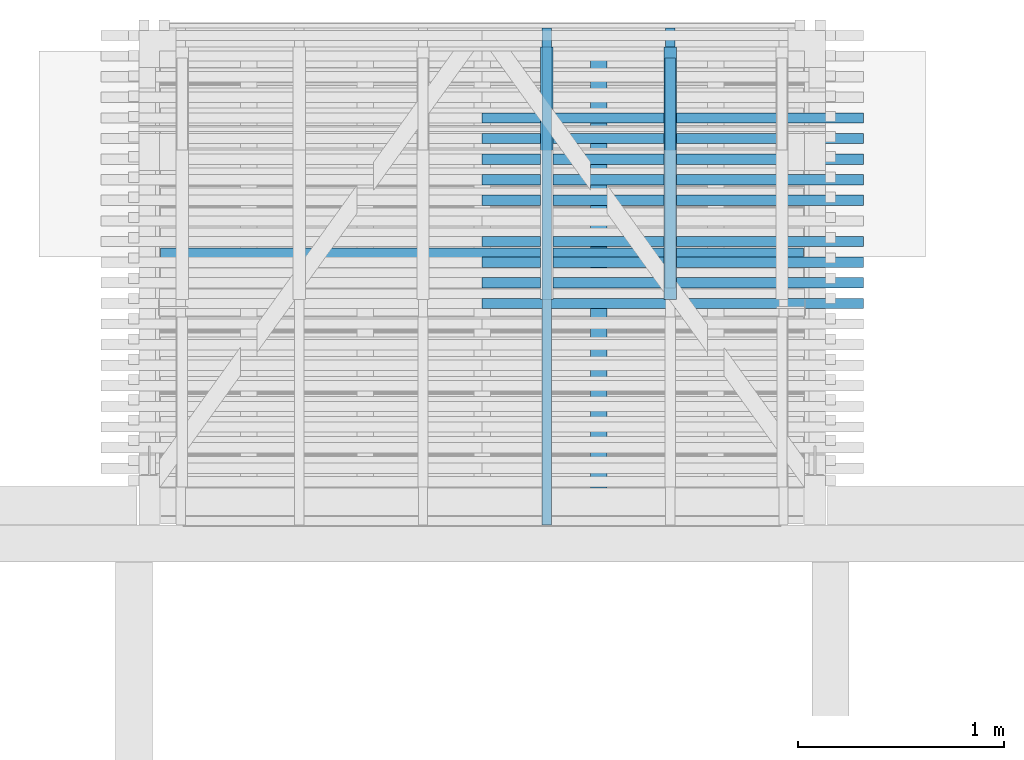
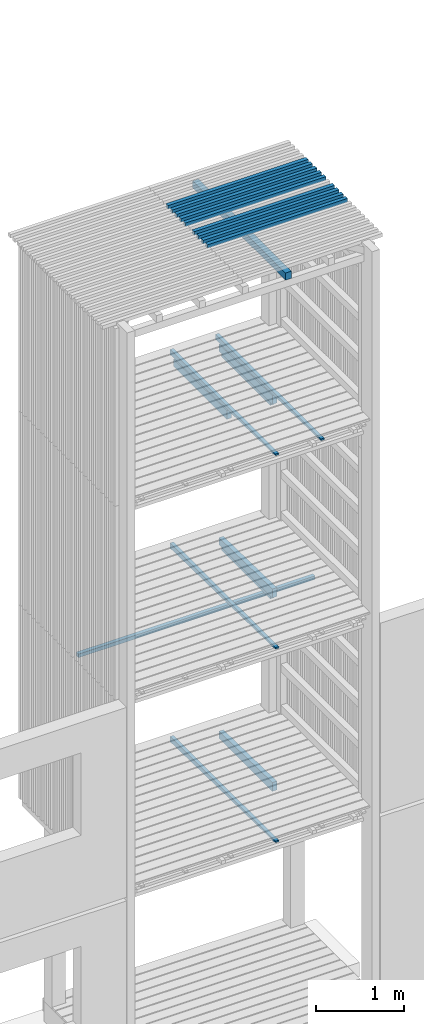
# One storey, part 49 of 182: 21 beams.
"""IFC2X3 building model written with IfcOpenShell, lengths in metres."""

from ifc_helpers import new_model, si_unit, frame, origin, place, context, project, spatial, faceted_brep, element, save


model = new_model("IFC2X3")

# Units and contexts
model_context = context("Model", 3, precision=1e-06, world=origin())
ifc_project = project(units=[si_unit("LENGTHUNIT", "METRE"), si_unit("PLANEANGLEUNIT", "RADIAN")], contexts=[model_context])

# Site, building, storey
site = spatial("IfcSite", under=ifc_project, CompositionType="ELEMENT")
building = spatial("IfcBuilding", under=site, CompositionType="ELEMENT")
storey = spatial("IfcBuildingStorey", under=building, Name="vs", CompositionType="ELEMENT", Elevation=-0.85)

# Beams
placement = place(None, origin())
beam_1_placement = place(placement, frame((15.902197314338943, 12.735077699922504, 7.91739999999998), z_axis=(0.0, 0.0, 1.0), x_axis=(0.0, -1.0, 0.0)))
element("IfcBeam", 1, at=beam_1_placement, inside=storey, Name="Calage", context=model_context, shape_type="Brep", body=[
    faceted_brep([(0.0, -0.025000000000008, -0.025), (0.0, -0.025000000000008, 0.024999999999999), (0.0, 0.024999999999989, 0.024999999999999), (0.0, 0.024999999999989, -0.025), (1.115000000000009, 0.024999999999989, 0.024999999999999), (1.115000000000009, -0.025000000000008, 0.024999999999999), (1.115000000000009, -0.025000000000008, -0.025), (1.115000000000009, 0.024999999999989, -0.025), (0.0, 0.024999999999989, 0.024999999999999), (0.0, -0.025000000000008, 0.024999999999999), (1.115000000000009, -0.025000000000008, 0.024999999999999), (1.115000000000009, 0.024999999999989, 0.024999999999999), (1.115000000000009, -0.025000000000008, 0.024999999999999), (0.0, -0.025000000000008, 0.024999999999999), (0.0, -0.025000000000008, -0.025), (1.115000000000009, -0.025000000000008, -0.025), (1.115000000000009, -0.025000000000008, -0.025), (0.0, -0.025000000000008, -0.025), (0.0, 0.024999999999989, -0.025), (1.115000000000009, 0.024999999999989, -0.025), (1.115000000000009, 0.024999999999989, -0.025), (0.0, 0.024999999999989, -0.025), (0.0, 0.024999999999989, 0.024999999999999), (1.115000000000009, 0.024999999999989, 0.024999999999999)], [[[0, 1, 2, 3]], [[4, 5, 6, 7]], [[8, 9, 10, 11]], [[12, 13, 14, 15]], [[16, 17, 18, 19]], [[20, 21, 22, 23]]]),
])
beam_2_placement = place(placement, frame((15.90219731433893, 10.4700776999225, 8.084400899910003), z_axis=(0.0, 0.0, 1.0), x_axis=(6e-15, 1.0, 0.0)))
element("IfcBeam", 2, at=beam_2_placement, inside=storey, Name="Calage", context=model_context, shape_type="Brep", body=[
    faceted_brep([(2.410000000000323, -0.022499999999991, -0.035599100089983), (0.0, -0.022500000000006, 0.012600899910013), (0.0, 0.022499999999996, 0.012600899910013), (2.410000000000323, 0.022500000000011, -0.035599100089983), (0.0, 0.022499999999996, 0.035599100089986), (0.0, 0.022499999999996, 0.012600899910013), (0.0, -0.022500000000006, 0.012600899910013), (0.0, -0.022500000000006, 0.035599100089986), (2.410000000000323, 0.022500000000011, -0.035599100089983), (0.0, 0.022499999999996, 0.012600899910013), (0.0, 0.022499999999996, 0.035599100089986), (2.410000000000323, 0.022500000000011, 0.035599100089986), (2.410000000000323, -0.022499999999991, 0.035599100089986), (0.0, -0.022500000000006, 0.035599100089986), (0.0, -0.022500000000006, 0.012600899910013), (2.410000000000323, -0.022499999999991, -0.035599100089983), (2.410000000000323, 0.022500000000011, 0.035599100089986), (0.0, 0.022499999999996, 0.035599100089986), (0.0, -0.022500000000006, 0.035599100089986), (2.410000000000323, -0.022499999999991, 0.035599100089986), (2.410000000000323, 0.022500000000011, -0.035599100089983), (2.410000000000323, 0.022500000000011, 0.035599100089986), (2.410000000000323, -0.022499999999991, 0.035599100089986), (2.410000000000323, -0.022499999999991, -0.035599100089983)], [[[0, 1, 2, 3]], [[4, 5, 6, 7]], [[8, 9, 10, 11]], [[12, 13, 14, 15]], [[16, 17, 18, 19]], [[20, 21, 22, 23]]]),
])
beam_3_placement = place(placement, frame((16.839197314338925, 12.245077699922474, 10.47999999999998), z_axis=(0.0, 0.0, 1.0), x_axis=(-1.0, 0.0, 0.0)))
element("IfcBeam", 3, at=beam_3_placement, inside=storey, Name="Bardage", context=model_context, shape_type="Brep", body=[
    faceted_brep([(-3e-15, 0.024999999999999, 0.025000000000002), (-3e-15, -0.024999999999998, 0.025000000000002), (1.849999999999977, -0.024999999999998, 0.025000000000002), (1.849999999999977, 0.024999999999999, 0.025000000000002), (1.849999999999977, -0.024999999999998, 0.025000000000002), (-3e-15, -0.024999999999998, 0.025000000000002), (-3e-15, -0.024999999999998, -0.024999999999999), (1.849999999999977, -0.024999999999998, -0.024999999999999), (-3e-15, -0.024999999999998, 0.025000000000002), (-3e-15, 0.024999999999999, 0.025000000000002), (-3e-15, 0.024999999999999, -0.024999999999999), (-3e-15, -0.024999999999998, -0.024999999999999), (-3e-15, 0.024999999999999, -0.024999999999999), (-3e-15, 0.024999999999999, 0.025000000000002), (1.849999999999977, 0.024999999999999, 0.025000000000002), (1.849999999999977, 0.024999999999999, -0.024999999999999), (1.849999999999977, -0.024999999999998, -0.024999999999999), (-3e-15, -0.024999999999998, -0.024999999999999), (-3e-15, 0.024999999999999, -0.024999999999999), (1.849999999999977, 0.024999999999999, -0.024999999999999), (1.849999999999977, -0.024999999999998, 0.025000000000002), (1.849999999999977, -0.024999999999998, -0.024999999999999), (1.849999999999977, 0.024999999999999, -0.024999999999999), (1.849999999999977, 0.024999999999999, 0.025000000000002)], [[[0, 1, 2, 3]], [[4, 5, 6, 7]], [[8, 9, 10, 11]], [[12, 13, 14, 15]], [[16, 17, 18, 19]], [[20, 21, 22, 23]]]),
])
beam_4_placement = place(placement, frame((15.302197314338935, 10.4700776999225, 5.384400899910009), z_axis=(0.0, 0.0, 1.0), x_axis=(0.0, 1.0, 0.0)))
element("IfcBeam", 4, at=beam_4_placement, inside=storey, Name="Calage", context=model_context, shape_type="Brep", body=[
    faceted_brep([(2.410000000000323, -0.022499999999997, -0.035599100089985), (0.0, -0.022499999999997, 0.012600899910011), (0.0, 0.022500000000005, 0.012600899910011), (2.410000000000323, 0.02249999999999, -0.035599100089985), (0.0, 0.022500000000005, 0.035599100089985), (0.0, 0.022500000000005, 0.012600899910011), (0.0, -0.022499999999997, 0.012600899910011), (0.0, -0.022499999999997, 0.035599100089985), (2.410000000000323, 0.02249999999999, -0.035599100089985), (0.0, 0.022500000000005, 0.012600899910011), (0.0, 0.022500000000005, 0.035599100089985), (2.410000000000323, 0.022500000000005, 0.035599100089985), (2.410000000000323, -0.022499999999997, 0.035599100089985), (0.0, -0.022499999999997, 0.035599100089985), (0.0, -0.022499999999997, 0.012600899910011), (2.410000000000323, -0.022499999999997, -0.035599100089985), (2.410000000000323, 0.022500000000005, 0.035599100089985), (0.0, 0.022500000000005, 0.035599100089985), (0.0, -0.022499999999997, 0.035599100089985), (2.410000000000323, -0.022499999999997, 0.035599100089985), (2.410000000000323, 0.02249999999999, -0.035599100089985), (2.410000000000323, 0.022500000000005, 0.035599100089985), (2.410000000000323, -0.022499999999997, 0.035599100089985), (2.410000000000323, -0.022499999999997, -0.035599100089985)], [[[0, 1, 2, 3]], [[4, 5, 6, 7]], [[8, 9, 10, 11]], [[12, 13, 14, 15]], [[16, 17, 18, 19]], [[20, 21, 22, 23]]]),
])
beam_5_placement = place(placement, frame((16.839197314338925, 12.345077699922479, 10.47999999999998), z_axis=(0.0, 0.0, 1.0), x_axis=(-1.0, 0.0, 0.0)))
element("IfcBeam", 5, at=beam_5_placement, inside=storey, Name="Bardage", context=model_context, shape_type="Brep", body=[
    faceted_brep([(-3e-15, 0.025000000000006, 0.025000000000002), (-3e-15, -0.024999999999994, 0.025000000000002), (1.849999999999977, -0.024999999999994, 0.025000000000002), (1.849999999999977, 0.025000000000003, 0.025000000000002), (1.849999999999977, -0.024999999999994, 0.025000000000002), (-3e-15, -0.024999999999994, 0.025000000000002), (-3e-15, -0.024999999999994, -0.024999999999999), (1.849999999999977, -0.024999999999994, -0.024999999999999), (-3e-15, -0.024999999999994, 0.025000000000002), (-3e-15, 0.025000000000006, 0.025000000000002), (-3e-15, 0.025000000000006, -0.024999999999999), (-3e-15, -0.024999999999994, -0.024999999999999), (-3e-15, 0.025000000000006, -0.024999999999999), (-3e-15, 0.025000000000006, 0.025000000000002), (1.849999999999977, 0.025000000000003, 0.025000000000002), (1.849999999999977, 0.025000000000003, -0.024999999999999), (1.849999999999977, -0.024999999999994, -0.024999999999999), (-3e-15, -0.024999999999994, -0.024999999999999), (-3e-15, 0.025000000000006, -0.024999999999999), (1.849999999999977, 0.025000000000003, -0.024999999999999), (1.849999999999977, -0.024999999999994, 0.025000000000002), (1.849999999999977, -0.024999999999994, -0.024999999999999), (1.849999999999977, 0.025000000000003, -0.024999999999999), (1.849999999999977, 0.025000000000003, 0.025000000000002)], [[[0, 1, 2, 3]], [[4, 5, 6, 7]], [[8, 9, 10, 11]], [[12, 13, 14, 15]], [[16, 17, 18, 19]], [[20, 21, 22, 23]]]),
])
beam_6_placement = place(placement, frame((16.839197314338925, 11.745077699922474, 10.47999999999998), z_axis=(0.0, 0.0, 1.0), x_axis=(-1.0, 0.0, 0.0)))
element("IfcBeam", 6, at=beam_6_placement, inside=storey, Name="Bardage", context=model_context, shape_type="Brep", body=[
    faceted_brep([(-3e-15, 0.024999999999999, 0.025000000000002), (-3e-15, -0.024999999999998, 0.025000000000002), (1.849999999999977, -0.024999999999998, 0.025000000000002), (1.849999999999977, 0.024999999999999, 0.025000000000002), (1.849999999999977, -0.024999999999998, 0.025000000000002), (-3e-15, -0.024999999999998, 0.025000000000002), (-3e-15, -0.024999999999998, -0.024999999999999), (1.849999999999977, -0.024999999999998, -0.024999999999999), (-3e-15, -0.024999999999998, 0.025000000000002), (-3e-15, 0.024999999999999, 0.025000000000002), (-3e-15, 0.024999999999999, -0.024999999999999), (-3e-15, -0.024999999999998, -0.024999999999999), (-3e-15, 0.024999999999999, -0.024999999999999), (-3e-15, 0.024999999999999, 0.025000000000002), (1.849999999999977, 0.024999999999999, 0.025000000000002), (1.849999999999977, 0.024999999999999, -0.024999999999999), (1.849999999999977, -0.024999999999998, -0.024999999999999), (-3e-15, -0.024999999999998, -0.024999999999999), (-3e-15, 0.024999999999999, -0.024999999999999), (1.849999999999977, 0.024999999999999, -0.024999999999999), (1.849999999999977, -0.024999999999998, 0.025000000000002), (1.849999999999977, -0.024999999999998, -0.024999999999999), (1.849999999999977, 0.024999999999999, -0.024999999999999), (1.849999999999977, 0.024999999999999, 0.025000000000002)], [[[0, 1, 2, 3]], [[4, 5, 6, 7]], [[8, 9, 10, 11]], [[12, 13, 14, 15]], [[16, 17, 18, 19]], [[20, 21, 22, 23]]]),
])
beam_7_placement = place(placement, frame((15.90219731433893, 11.565077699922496, 2.604249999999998), z_axis=(0.0, 0.0, 1.0), x_axis=(0.0, 1.0, 0.0)))
element("IfcBeam", 7, at=beam_7_placement, inside=storey, Name="Solive", context=model_context, shape_type="Brep", body=[
    faceted_brep([(0.0, -0.029999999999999, -0.06185), (1.225000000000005, -0.029999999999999, -0.06185), (1.225000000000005, -0.029999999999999, 0.037349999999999), (0.0, -0.029999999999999, 0.06185), (0.0, 0.030000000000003, -0.06185), (1.225000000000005, 0.029999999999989, -0.06185), (1.225000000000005, -0.029999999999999, -0.06185), (0.0, -0.029999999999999, -0.06185), (0.0, 0.030000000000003, 0.06185), (0.0, 0.030000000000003, -0.06185), (0.0, -0.029999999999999, -0.06185), (0.0, -0.029999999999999, 0.06185), (1.225000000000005, 0.029999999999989, -0.06185), (0.0, 0.030000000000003, -0.06185), (0.0, 0.030000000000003, 0.06185), (1.225000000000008, 0.029999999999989, 0.03735), (1.225000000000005, -0.029999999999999, 0.037349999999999), (1.225000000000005, -0.029999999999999, -0.06185), (1.225000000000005, 0.029999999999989, -0.06185), (1.225000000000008, 0.029999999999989, 0.03735), (0.0, -0.029999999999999, 0.06185), (1.225000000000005, -0.029999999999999, 0.037349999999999), (1.225000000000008, 0.029999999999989, 0.03735), (0.0, 0.030000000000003, 0.06185)], [[[0, 1, 2, 3]], [[4, 5, 6, 7]], [[8, 9, 10, 11]], [[12, 13, 14, 15]], [[16, 17, 18, 19]], [[20, 21, 22, 23]]]),
])
beam_8_placement = place(placement, frame((15.90219731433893, 11.565077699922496, 8.00424999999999), z_axis=(0.0, 0.0, 1.0), x_axis=(1.2e-14, 1.0, 0.0)))
element("IfcBeam", 8, at=beam_8_placement, inside=storey, Name="Solive", context=model_context, shape_type="Brep", body=[
    faceted_brep([(0.0, -0.029999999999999, -0.061849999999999), (1.225000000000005, -0.029999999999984, -0.061849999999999), (1.225000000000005, -0.029999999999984, 0.037349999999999), (0.0, -0.029999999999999, 0.061849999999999), (-1e-15, 0.030000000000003, -0.061849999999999), (1.225000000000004, 0.030000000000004, -0.061849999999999), (1.225000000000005, -0.029999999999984, -0.061849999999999), (0.0, -0.029999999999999, -0.061849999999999), (-1e-15, 0.030000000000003, 0.061850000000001), (-1e-15, 0.030000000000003, -0.061849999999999), (0.0, -0.029999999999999, -0.061849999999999), (0.0, -0.029999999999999, 0.061849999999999), (1.225000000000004, 0.030000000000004, -0.061849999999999), (-1e-15, 0.030000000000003, -0.061849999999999), (-1e-15, 0.030000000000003, 0.061850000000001), (1.225000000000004, 0.030000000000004, 0.037349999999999), (1.225000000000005, -0.029999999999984, 0.037349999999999), (1.225000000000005, -0.029999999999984, -0.061849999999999), (1.225000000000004, 0.030000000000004, -0.061849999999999), (1.225000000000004, 0.030000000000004, 0.037349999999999), (0.0, -0.029999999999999, 0.061849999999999), (1.225000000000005, -0.029999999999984, 0.037349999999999), (1.225000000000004, 0.030000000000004, 0.037349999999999), (-1e-15, 0.030000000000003, 0.061850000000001)], [[[0, 1, 2, 3]], [[4, 5, 6, 7]], [[8, 9, 10, 11]], [[12, 13, 14, 15]], [[16, 17, 18, 19]], [[20, 21, 22, 23]]]),
])
beam_9_placement = place(placement, frame((15.302197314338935, 10.4700776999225, 8.084400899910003), z_axis=(0.0, 0.0, 1.0), x_axis=(0.0, 1.0, 0.0)))
element("IfcBeam", 9, at=beam_9_placement, inside=storey, Name="Calage", context=model_context, shape_type="Brep", body=[
    faceted_brep([(2.410000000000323, -0.022499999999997, -0.035599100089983), (0.0, -0.022499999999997, 0.012600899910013), (0.0, 0.02249999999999, 0.012600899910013), (2.410000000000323, 0.02249999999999, -0.035599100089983), (0.0, 0.02249999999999, 0.035599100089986), (0.0, 0.02249999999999, 0.012600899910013), (0.0, -0.022499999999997, 0.012600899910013), (0.0, -0.022499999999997, 0.035599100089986), (2.410000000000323, 0.02249999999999, -0.035599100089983), (0.0, 0.02249999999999, 0.012600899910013), (0.0, 0.02249999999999, 0.035599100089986), (2.410000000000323, 0.02249999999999, 0.035599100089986), (2.410000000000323, -0.022499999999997, 0.035599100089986), (0.0, -0.022499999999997, 0.035599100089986), (0.0, -0.022499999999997, 0.012600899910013), (2.410000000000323, -0.022499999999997, -0.035599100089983), (2.410000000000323, 0.02249999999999, 0.035599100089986), (0.0, 0.02249999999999, 0.035599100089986), (0.0, -0.022499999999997, 0.035599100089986), (2.410000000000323, -0.022499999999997, 0.035599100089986), (2.410000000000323, 0.02249999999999, -0.035599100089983), (2.410000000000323, 0.02249999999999, 0.035599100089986), (2.410000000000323, -0.022499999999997, 0.035599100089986), (2.410000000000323, -0.022499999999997, -0.035599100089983)], [[[0, 1, 2, 3]], [[4, 5, 6, 7]], [[8, 9, 10, 11]], [[12, 13, 14, 15]], [[16, 17, 18, 19]], [[20, 21, 22, 23]]]),
])
beam_10_placement = place(placement, frame((15.302197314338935, 10.4700776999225, 2.684400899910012), z_axis=(0.0, 0.0, 1.0), x_axis=(0.0, 1.0, 0.0)))
element("IfcBeam", 10, at=beam_10_placement, inside=storey, Name="Calage", context=model_context, shape_type="Brep", body=[
    faceted_brep([(2.410000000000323, -0.022499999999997, -0.035599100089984), (0.0, -0.022499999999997, 0.012600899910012), (0.0, 0.022500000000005, 0.012600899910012), (2.410000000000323, 0.02249999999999, -0.035599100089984), (0.0, 0.022500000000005, 0.035599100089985), (0.0, 0.022500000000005, 0.012600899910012), (0.0, -0.022499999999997, 0.012600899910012), (0.0, -0.022499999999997, 0.035599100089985), (2.410000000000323, 0.02249999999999, -0.035599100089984), (0.0, 0.022500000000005, 0.012600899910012), (0.0, 0.022500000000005, 0.035599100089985), (2.410000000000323, 0.022500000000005, 0.035599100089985), (2.410000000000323, -0.022499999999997, 0.035599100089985), (0.0, -0.022499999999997, 0.035599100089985), (0.0, -0.022499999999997, 0.012600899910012), (2.410000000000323, -0.022499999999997, -0.035599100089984), (2.410000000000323, 0.022500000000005, 0.035599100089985), (0.0, 0.022500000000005, 0.035599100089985), (0.0, -0.022499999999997, 0.035599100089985), (2.410000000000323, -0.022499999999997, 0.035599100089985), (2.410000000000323, 0.02249999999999, -0.035599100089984), (2.410000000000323, 0.022500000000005, 0.035599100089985), (2.410000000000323, -0.022499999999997, 0.035599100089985), (2.410000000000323, -0.022499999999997, -0.035599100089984)], [[[0, 1, 2, 3]], [[4, 5, 6, 7]], [[8, 9, 10, 11]], [[12, 13, 14, 15]], [[16, 17, 18, 19]], [[20, 21, 22, 23]]]),
])
beam_11_placement = place(placement, frame((15.902197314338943, 12.735077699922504, 5.217399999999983), z_axis=(0.0, 0.0, 1.0), x_axis=(0.0, -1.0, 0.0)))
element("IfcBeam", 11, at=beam_11_placement, inside=storey, Name="Calage", context=model_context, shape_type="Brep", body=[
    faceted_brep([(0.0, -0.025000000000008, -0.025), (0.0, -0.025000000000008, 0.024999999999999), (0.0, 0.024999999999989, 0.024999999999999), (0.0, 0.024999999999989, -0.025), (1.115000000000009, 0.024999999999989, 0.024999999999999), (1.115000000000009, -0.025000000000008, 0.024999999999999), (1.115000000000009, -0.025000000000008, -0.025), (1.115000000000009, 0.024999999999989, -0.025), (0.0, 0.024999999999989, 0.024999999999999), (0.0, -0.025000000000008, 0.024999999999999), (1.115000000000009, -0.025000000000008, 0.024999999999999), (1.115000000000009, 0.024999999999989, 0.024999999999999), (1.115000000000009, -0.025000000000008, 0.024999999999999), (0.0, -0.025000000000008, 0.024999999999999), (0.0, -0.025000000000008, -0.025), (1.115000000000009, -0.025000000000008, -0.025), (1.115000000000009, -0.025000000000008, -0.025), (0.0, -0.025000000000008, -0.025), (0.0, 0.024999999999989, -0.025), (1.115000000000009, 0.024999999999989, -0.025), (1.115000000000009, 0.024999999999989, -0.025), (0.0, 0.024999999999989, -0.025), (0.0, 0.024999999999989, 0.024999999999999), (1.115000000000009, 0.024999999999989, 0.024999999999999)], [[[0, 1, 2, 3]], [[4, 5, 6, 7]], [[8, 9, 10, 11]], [[12, 13, 14, 15]], [[16, 17, 18, 19]], [[20, 21, 22, 23]]]),
])
for number, where, z_axis, x_axis in (
    (12, (16.839197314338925, 12.145077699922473, 10.47999999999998), (0.0, 0.0, 1.0), (-1.0, 0.0, 0.0)),
    (13, (16.839197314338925, 11.645077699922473, 10.47999999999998), (0.0, 0.0, 1.0), (-1.0, 0.0, 0.0)),
):
    element("IfcBeam", number, at=place(placement, frame(where, z_axis=z_axis, x_axis=x_axis)), inside=storey, Name="Bardage", context=model_context, shape_type="Brep", body=[
        faceted_brep([(-3e-15, 0.024999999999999, 0.025000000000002), (-3e-15, -0.025000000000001, 0.025000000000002), (1.849999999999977, -0.025000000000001, 0.025000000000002), (1.849999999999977, 0.024999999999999, 0.025000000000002), (1.849999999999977, -0.025000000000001, 0.025000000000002), (-3e-15, -0.025000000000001, 0.025000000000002), (-3e-15, -0.025000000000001, -0.024999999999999), (1.849999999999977, -0.025000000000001, -0.024999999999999), (-3e-15, -0.025000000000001, 0.025000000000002), (-3e-15, 0.024999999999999, 0.025000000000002), (-3e-15, 0.024999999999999, -0.024999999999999), (-3e-15, -0.025000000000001, -0.024999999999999), (-3e-15, 0.024999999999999, -0.024999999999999), (-3e-15, 0.024999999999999, 0.025000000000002), (1.849999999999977, 0.024999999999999, 0.025000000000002), (1.849999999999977, 0.024999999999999, -0.024999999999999), (1.849999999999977, -0.025000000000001, -0.024999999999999), (-3e-15, -0.025000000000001, -0.024999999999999), (-3e-15, 0.024999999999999, -0.024999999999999), (1.849999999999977, 0.024999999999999, -0.024999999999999), (1.849999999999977, -0.025000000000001, 0.025000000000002), (1.849999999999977, -0.025000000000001, -0.024999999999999), (1.849999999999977, 0.024999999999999, -0.024999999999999), (1.849999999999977, 0.024999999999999, 0.025000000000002)], [[[0, 1, 2, 3]], [[4, 5, 6, 7]], [[8, 9, 10, 11]], [[12, 13, 14, 15]], [[16, 17, 18, 19]], [[20, 21, 22, 23]]]),
    ])
beam_12_placement = place(placement, frame((16.839197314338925, 11.545077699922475, 10.47999999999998), z_axis=(0.0, 0.0, 1.0), x_axis=(-1.0, 0.0, 0.0)))
element("IfcBeam", 14, at=beam_12_placement, inside=storey, Name="Bardage", context=model_context, shape_type="Brep", body=[
    faceted_brep([(-3e-15, 0.025000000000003, 0.025000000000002), (-3e-15, -0.024999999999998, 0.025000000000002), (1.849999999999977, -0.024999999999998, 0.025000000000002), (1.849999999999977, 0.025000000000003, 0.025000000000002), (1.849999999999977, -0.024999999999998, 0.025000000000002), (-3e-15, -0.024999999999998, 0.025000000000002), (-3e-15, -0.024999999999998, -0.024999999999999), (1.849999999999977, -0.024999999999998, -0.024999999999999), (-3e-15, -0.024999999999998, 0.025000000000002), (-3e-15, 0.025000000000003, 0.025000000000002), (-3e-15, 0.025000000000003, -0.024999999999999), (-3e-15, -0.024999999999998, -0.024999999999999), (-3e-15, 0.025000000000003, -0.024999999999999), (-3e-15, 0.025000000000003, 0.025000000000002), (1.849999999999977, 0.025000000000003, 0.025000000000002), (1.849999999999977, 0.025000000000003, -0.024999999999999), (1.849999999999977, -0.024999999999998, -0.024999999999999), (-3e-15, -0.024999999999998, -0.024999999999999), (-3e-15, 0.025000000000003, -0.024999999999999), (1.849999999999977, 0.025000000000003, -0.024999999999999), (1.849999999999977, -0.024999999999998, 0.025000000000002), (1.849999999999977, -0.024999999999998, -0.024999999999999), (1.849999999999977, 0.025000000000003, -0.024999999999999), (1.849999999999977, 0.025000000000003, 0.025000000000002)], [[[0, 1, 2, 3]], [[4, 5, 6, 7]], [[8, 9, 10, 11]], [[12, 13, 14, 15]], [[16, 17, 18, 19]], [[20, 21, 22, 23]]]),
])
beam_13_placement = place(placement, frame((16.839197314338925, 12.045077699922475, 10.47999999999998), z_axis=(0.0, 0.0, 1.0), x_axis=(-1.0, 0.0, 0.0)))
element("IfcBeam", 15, at=beam_13_placement, inside=storey, Name="Bardage", context=model_context, shape_type="Brep", body=[
    faceted_brep([(-3e-15, 0.025000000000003, 0.025000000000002), (-3e-15, -0.024999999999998, 0.025000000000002), (1.849999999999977, -0.025000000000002, 0.025000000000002), (1.849999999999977, 0.025000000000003, 0.025000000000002), (1.849999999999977, -0.025000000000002, 0.025000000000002), (-3e-15, -0.024999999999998, 0.025000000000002), (-3e-15, -0.024999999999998, -0.024999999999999), (1.849999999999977, -0.025000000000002, -0.024999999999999), (-3e-15, -0.024999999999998, 0.025000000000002), (-3e-15, 0.025000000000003, 0.025000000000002), (-3e-15, 0.025000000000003, -0.024999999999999), (-3e-15, -0.024999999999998, -0.024999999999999), (-3e-15, 0.025000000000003, -0.024999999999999), (-3e-15, 0.025000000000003, 0.025000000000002), (1.849999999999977, 0.025000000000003, 0.025000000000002), (1.849999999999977, 0.025000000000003, -0.024999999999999), (1.849999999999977, -0.025000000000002, -0.024999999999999), (-3e-15, -0.024999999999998, -0.024999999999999), (-3e-15, 0.025000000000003, -0.024999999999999), (1.849999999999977, 0.025000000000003, -0.024999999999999), (1.849999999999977, -0.025000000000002, 0.025000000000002), (1.849999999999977, -0.025000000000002, -0.024999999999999), (1.849999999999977, 0.025000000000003, -0.024999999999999), (1.849999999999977, 0.025000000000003, 0.025000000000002)], [[[0, 1, 2, 3]], [[4, 5, 6, 7]], [[8, 9, 10, 11]], [[12, 13, 14, 15]], [[16, 17, 18, 19]], [[20, 21, 22, 23]]]),
])
beam_14_placement = place(placement, frame((15.90219731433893, 11.565077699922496, 5.304249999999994), z_axis=(0.0, 0.0, 1.0), x_axis=(0.0, 1.0, 0.0)))
element("IfcBeam", 16, at=beam_14_placement, inside=storey, Name="Solive", context=model_context, shape_type="Brep", body=[
    faceted_brep([(0.0, -0.029999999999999, -0.061849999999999), (1.225000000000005, -0.029999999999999, -0.061849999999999), (1.225000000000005, -0.029999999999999, 0.03735), (0.0, -0.029999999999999, 0.06185), (0.0, 0.030000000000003, -0.061849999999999), (1.225000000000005, 0.029999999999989, -0.061849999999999), (1.225000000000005, -0.029999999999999, -0.061849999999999), (0.0, -0.029999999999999, -0.061849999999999), (0.0, 0.030000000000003, 0.061850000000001), (0.0, 0.030000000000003, -0.061849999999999), (0.0, -0.029999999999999, -0.061849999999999), (0.0, -0.029999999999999, 0.06185), (1.225000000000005, 0.029999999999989, -0.061849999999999), (0.0, 0.030000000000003, -0.061849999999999), (0.0, 0.030000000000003, 0.061850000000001), (1.225000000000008, 0.029999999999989, 0.03735), (1.225000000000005, -0.029999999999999, 0.03735), (1.225000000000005, -0.029999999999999, -0.061849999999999), (1.225000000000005, 0.029999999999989, -0.061849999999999), (1.225000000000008, 0.029999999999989, 0.03735), (0.0, -0.029999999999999, 0.06185), (1.225000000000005, -0.029999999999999, 0.03735), (1.225000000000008, 0.029999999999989, 0.03735), (0.0, 0.030000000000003, 0.061850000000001)], [[[0, 1, 2, 3]], [[4, 5, 6, 7]], [[8, 9, 10, 11]], [[12, 13, 14, 15]], [[16, 17, 18, 19]], [[20, 21, 22, 23]]]),
])
beam_15_placement = place(placement, frame((16.839197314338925, 11.845077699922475, 10.47999999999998), z_axis=(0.0, 0.0, 1.0), x_axis=(-1.0, 0.0, 0.0)))
element("IfcBeam", 17, at=beam_15_placement, inside=storey, Name="Bardage", context=model_context, shape_type="Brep", body=[
    faceted_brep([(-3e-15, 0.025000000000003, 0.025000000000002), (-3e-15, -0.024999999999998, 0.025000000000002), (1.849999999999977, -0.024999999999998, 0.025000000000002), (1.849999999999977, 0.025000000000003, 0.025000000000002), (1.849999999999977, -0.024999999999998, 0.025000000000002), (-3e-15, -0.024999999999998, 0.025000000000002), (-3e-15, -0.024999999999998, -0.024999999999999), (1.849999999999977, -0.024999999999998, -0.024999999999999), (-3e-15, -0.024999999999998, 0.025000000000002), (-3e-15, 0.025000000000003, 0.025000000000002), (-3e-15, 0.025000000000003, -0.024999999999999), (-3e-15, -0.024999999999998, -0.024999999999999), (-3e-15, 0.025000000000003, -0.024999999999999), (-3e-15, 0.025000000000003, 0.025000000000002), (1.849999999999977, 0.025000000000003, 0.025000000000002), (1.849999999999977, 0.025000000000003, -0.024999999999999), (1.849999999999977, -0.024999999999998, -0.024999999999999), (-3e-15, -0.024999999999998, -0.024999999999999), (-3e-15, 0.025000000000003, -0.024999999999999), (1.849999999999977, 0.025000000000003, -0.024999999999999), (1.849999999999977, -0.024999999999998, 0.025000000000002), (1.849999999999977, -0.024999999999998, -0.024999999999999), (1.849999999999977, 0.025000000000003, -0.024999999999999), (1.849999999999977, 0.025000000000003, 0.025000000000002)], [[[0, 1, 2, 3]], [[4, 5, 6, 7]], [[8, 9, 10, 11]], [[12, 13, 14, 15]], [[16, 17, 18, 19]], [[20, 21, 22, 23]]]),
])
beam_16_placement = place(placement, frame((15.302197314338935, 11.565077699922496, 8.00424999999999), z_axis=(0.0, 0.0, 1.0), x_axis=(0.0, 1.0, 0.0)))
element("IfcBeam", 18, at=beam_16_placement, inside=storey, Name="Solive", context=model_context, shape_type="Brep", body=[
    faceted_brep([(0.0, -0.030000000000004, -0.061849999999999), (1.225000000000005, -0.030000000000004, -0.061849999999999), (1.225000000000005, -0.030000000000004, 0.037349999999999), (0.0, -0.030000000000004, 0.061849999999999), (0.0, 0.029999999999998, 0.061850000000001), (0.0, 0.029999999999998, -0.061849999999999), (0.0, -0.030000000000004, -0.061849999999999), (0.0, -0.030000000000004, 0.061849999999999), (0.0, -0.030000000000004, -0.061849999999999), (0.0, 0.029999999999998, -0.061849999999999), (1.225000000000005, 0.029999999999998, -0.061849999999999), (1.225000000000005, -0.030000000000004, -0.061849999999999), (1.225000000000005, 0.029999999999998, -0.061849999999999), (0.0, 0.029999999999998, -0.061849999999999), (0.0, 0.029999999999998, 0.061850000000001), (1.225000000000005, 0.029999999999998, 0.037349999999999), (1.225000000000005, -0.030000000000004, 0.037349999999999), (1.225000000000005, -0.030000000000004, -0.061849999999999), (1.225000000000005, 0.029999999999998, -0.061849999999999), (1.225000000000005, 0.029999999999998, 0.037349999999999), (0.0, -0.030000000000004, 0.061849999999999), (1.225000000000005, -0.030000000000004, 0.037349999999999), (1.225000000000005, 0.029999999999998, 0.037349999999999), (0.0, 0.029999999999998, 0.061850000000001)], [[[0, 1, 2, 3]], [[4, 5, 6, 7]], [[8, 9, 10, 11]], [[12, 13, 14, 15]], [[16, 17, 18, 19]], [[20, 21, 22, 23]]]),
])
beam_17_placement = place(placement, frame((15.55586398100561, 10.650077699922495, 10.404999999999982), z_axis=(0.0, 0.0, 1.0), x_axis=(0.0, 1.0, 0.0)))
element("IfcBeam", 19, at=beam_17_placement, inside=storey, Name="Support bardage", context=model_context, shape_type="Brep", body=[
    faceted_brep([(2.120000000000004, -0.039999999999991, 0.050000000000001), (2.120000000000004, 0.040000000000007, 0.050000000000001), (3e-15, 0.040000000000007, 0.050000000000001), (3e-15, -0.039999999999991, 0.050000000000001), (3e-15, 0.040000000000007, 0.050000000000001), (2.120000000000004, 0.040000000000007, 0.050000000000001), (2.120000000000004, 0.040000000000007, -0.050000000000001), (3e-15, 0.040000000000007, -0.050000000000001), (2.120000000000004, 0.040000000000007, 0.050000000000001), (2.120000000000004, -0.039999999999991, 0.050000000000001), (2.120000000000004, -0.039999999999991, -0.050000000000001), (2.120000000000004, 0.040000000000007, -0.050000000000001), (2.120000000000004, -0.039999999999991, -0.050000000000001), (2.120000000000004, -0.039999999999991, 0.050000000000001), (3e-15, -0.039999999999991, 0.050000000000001), (3e-15, -0.039999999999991, -0.050000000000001), (3e-15, 0.040000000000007, -0.050000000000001), (2.120000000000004, 0.040000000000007, -0.050000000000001), (2.120000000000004, -0.039999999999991, -0.050000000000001), (3e-15, -0.039999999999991, -0.050000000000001), (3e-15, 0.040000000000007, 0.050000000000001), (3e-15, 0.040000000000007, -0.050000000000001), (3e-15, -0.039999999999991, -0.050000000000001), (3e-15, -0.039999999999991, 0.050000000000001)], [[[0, 1, 2, 3]], [[4, 5, 6, 7]], [[8, 9, 10, 11]], [[12, 13, 14, 15]], [[16, 17, 18, 19]], [[20, 21, 22, 23]]]),
])
beam_18_placement = place(placement, frame((16.839197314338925, 12.445077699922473, 10.47999999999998), z_axis=(0.0, 0.0, 1.0), x_axis=(-1.0, 2e-15, 0.0)))
element("IfcBeam", 20, at=beam_18_placement, inside=storey, Name="Bardage", context=model_context, shape_type="Brep", body=[
    faceted_brep([(-3e-15, 0.024999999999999, 0.025000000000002), (-3e-15, -0.025000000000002, 0.025000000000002), (1.849999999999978, -0.024999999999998, 0.025000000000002), (1.849999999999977, 0.025000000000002, 0.025000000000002), (1.849999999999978, -0.024999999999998, 0.025000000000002), (-3e-15, -0.025000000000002, 0.025000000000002), (-3e-15, -0.025000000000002, -0.024999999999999), (1.849999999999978, -0.024999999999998, -0.024999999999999), (-3e-15, -0.025000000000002, 0.025000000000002), (-3e-15, 0.024999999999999, 0.025000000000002), (-3e-15, 0.024999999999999, -0.024999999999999), (-3e-15, -0.025000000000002, -0.024999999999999), (-3e-15, 0.024999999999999, -0.024999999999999), (-3e-15, 0.024999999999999, 0.025000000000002), (1.849999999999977, 0.025000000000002, 0.025000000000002), (1.849999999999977, 0.025000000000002, -0.024999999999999), (1.849999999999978, -0.024999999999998, -0.024999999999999), (-3e-15, -0.025000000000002, -0.024999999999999), (-3e-15, 0.024999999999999, -0.024999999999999), (1.849999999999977, 0.025000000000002, -0.024999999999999), (1.849999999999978, -0.024999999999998, 0.025000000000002), (1.849999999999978, -0.024999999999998, -0.024999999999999), (1.849999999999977, 0.025000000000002, -0.024999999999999), (1.849999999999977, 0.025000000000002, 0.025000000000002)], [[[0, 1, 2, 3]], [[4, 5, 6, 7]], [[8, 9, 10, 11]], [[12, 13, 14, 15]], [[16, 17, 18, 19]], [[20, 21, 22, 23]]]),
])
beam_19_placement = place(placement, frame((16.549197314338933, 11.789244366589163, 5.167399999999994), z_axis=(0.0, 0.0, 1.0), x_axis=(-1.0, 0.0, 0.0)))
element("IfcBeam", 21, at=beam_19_placement, inside=storey, Name="Bardage", context=model_context, shape_type="Brep", body=[
    faceted_brep([(3.120000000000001, 0.025000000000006, -0.024999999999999), (3.120000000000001, 0.025000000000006, 0.025), (3.120000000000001, -0.024999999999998, 0.025), (3.120000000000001, -0.024999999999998, -0.024999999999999), (-3e-15, -0.024999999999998, -0.024999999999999), (-3e-15, -0.024999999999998, 0.025), (-3e-15, 0.025000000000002, 0.025), (-3e-15, 0.025000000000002, -0.024999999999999), (-3e-15, 0.025000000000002, -0.024999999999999), (-3e-15, 0.025000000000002, 0.025), (3.120000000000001, 0.025000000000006, 0.025), (3.120000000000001, 0.025000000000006, -0.024999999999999), (-3e-15, 0.025000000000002, 0.025), (-3e-15, -0.024999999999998, 0.025), (3.120000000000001, -0.024999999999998, 0.025), (3.120000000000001, 0.025000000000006, 0.025), (-3e-15, -0.024999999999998, 0.025), (-3e-15, -0.024999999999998, -0.024999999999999), (3.120000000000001, -0.024999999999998, -0.024999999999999), (3.120000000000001, -0.024999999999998, 0.025), (-3e-15, -0.024999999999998, -0.024999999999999), (-3e-15, 0.025000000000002, -0.024999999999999), (3.120000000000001, 0.025000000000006, -0.024999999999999), (3.120000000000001, -0.024999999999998, -0.024999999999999)], [[[0, 1, 2, 3]], [[4, 5, 6, 7]], [[8, 9, 10, 11]], [[12, 13, 14, 15]], [[16, 17, 18, 19]], [[20, 21, 22, 23]]]),
])

save(model, "model.ifc")
